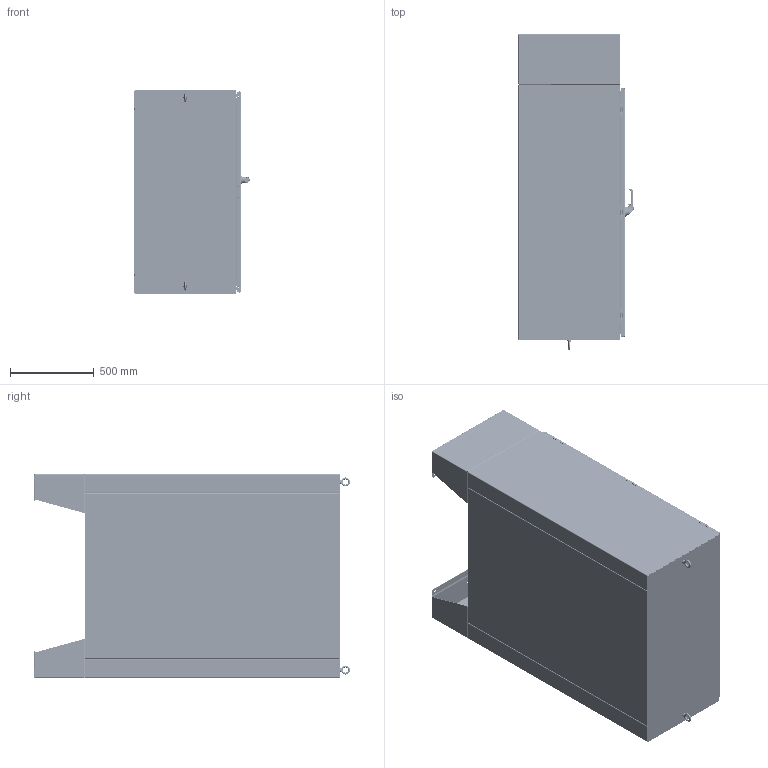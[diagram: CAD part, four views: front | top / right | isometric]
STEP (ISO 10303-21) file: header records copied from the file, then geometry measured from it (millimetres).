
FILE_DESCRIPTION((''),'2;1');
FILE_NAME('MODEL-151_ASM','2025-05-13T11:17:06',('andrew.knowlton'),('SAGINAW CONTROL & ENGINEERING'),'CREO PARAMETRIC BY PTC INC, 2021284','CREO PARAMETRIC BY PTC INC, 2021284','');
FILE_SCHEMA(('AUTOMOTIVE_DESIGN { 1 0 10303 214 1 1 1 1 }'));
Length unit declared in the file: inch
Products named in the file (72): MODEL-151-BTM; MODEL-151-RS; MODEL-151-LS; MODEL-151-TP; MODEL-151-BCK; MODEL-151-MSTR; 100837; 111267; 100882; 100955_SCREW_MTG; 100955_PADLOCK_CATCH; 100955_SCREW_LARGE; 100955_INSERT_SHAFT; 100955_INSERT_PKH; 100955_GASKET; 100955_O-RING; 100955_BASE; 100955_SPRING; 100955_HANDLE; 100955_CAM_SHAFT; 100955_HANDLE_ASM; 100955_CAM_ADAPTER; 100955_EARTH_NUT; 100955_FLANGE_NUT; 100955_CAM_NUT; 100955_KEY_INSERT; 100955_SPRING_CAM; 100955_TORSION_SPRING; 100955_SCREW_INSERT; 100955_ASM; 102236; 100030; 102236_ASM; MODEL-151-ROD-UPR; 128146; 128145; 128144; 102482; MODEL-151-ROD-UPR_ASM; 128143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
Assembly tree (149 placements, depth 5):
  MODEL-151_ASM
    MODEL-151-BTM
    MODEL-151-RS
    MODEL-151-LS
    MODEL-151-TP
    MODEL-151-BCK
    MODEL-151-MASTER-DR-ASSY_ASM
      MODEL-151-MSTR
      100837  x5
      111267
      100882  x10
      100955_ASM
        100955_SCREW_MTG
        100955_PADLOCK_CATCH
        100955_SCREW_LARGE  x2
        100955_INSERT_SHAFT
        100955_INSERT_PKH
        100955_GASKET
        100955_O-RING
        100955_BASE
        100955_SPRING
        100955_HANDLE_ASM
          100955_HANDLE
          100955_CAM_SHAFT
        100955_CAM_ADAPTER
        100955_EARTH_NUT
        100955_FLANGE_NUT
        100955_CAM_NUT
        100955_KEY_INSERT
        100955_SPRING_CAM
        100955_TORSION_SPRING
        100955_SCREW_INSERT
      102236_ASM
        102236
        100030  x2
      MODEL-151-ROD-UPR_ASM
        MODEL-151-ROD-UPR
        128146
        128145
        128144
        102482  x2
      128143  x2
      112504  x2
      MODEL-151-ROD-LWR_ASM
        MODEL-151-ROD-LWR
        128146
        128145
        128144
        102482  x2
      MODEL-151-PR-GSKT-M
      128257_ASM  x3
        128257
      126393  x3
      102483  x3
      101369_ASM  x3
        101369
        101369-STUD
      101221  x3
    MODEL-151-SLAVE-DR-ASSY_ASM
      MODEL-151-SLV
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Bounding box: 687.85 x 1889.96 x 1219.2 mm (x, y, z)
Volume: 29539733.7 mm3; surface area: 21434946.1 mm2
Topology: 159 solids, 159 shells, 15015 faces, 38572 edges, 23925 vertices
Faces by surface type: plane 5180, cylinder 3963, bspline 3696, torus 1051, cone 757, sphere 338, extrusion 30
Entity records: 397186 total; most frequent: CARTESIAN_POINT 156465, ORIENTED_EDGE 36490, DIRECTION 33331, PRESENTATION_STYLE_ASSIGNMENT 19191, STYLED_ITEM 19186, EDGE_CURVE 18245, CURVE_STYLE 18197, AXIS2_PLACEMENT_3D 12446
